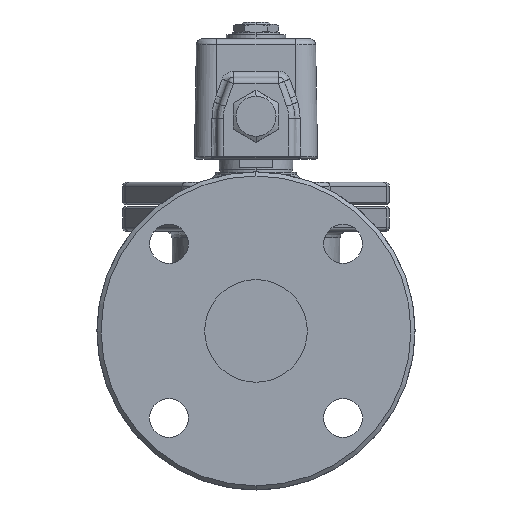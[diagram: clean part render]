
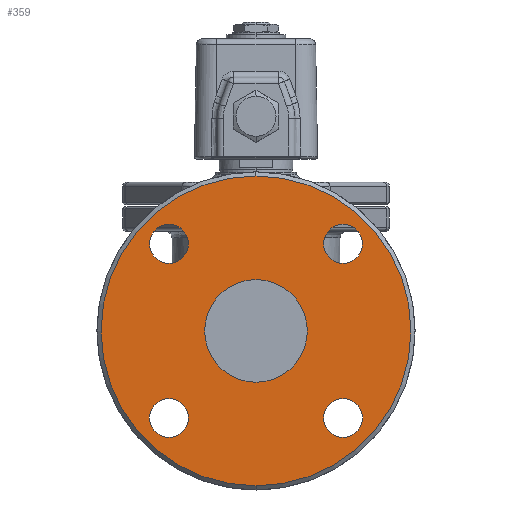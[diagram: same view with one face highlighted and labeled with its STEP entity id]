
A CAD part, left-side view. The second image highlights one B-rep face of the part: STEP entity #359.
In plain terms, the highlighted planar face has unit normal (-1, 0, 0).
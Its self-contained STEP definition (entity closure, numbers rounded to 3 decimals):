
#359=ADVANCED_FACE('',(#2047,#2048,#2049,#2050,#2051,#2052),#2046,.F.);
#2046=PLANE('',#7101);
#2047=FACE_OUTER_BOUND('',#7102,.T.);
#2048=FACE_BOUND('',#7103,.T.);
#2049=FACE_BOUND('',#7104,.T.);
#2050=FACE_BOUND('',#7105,.T.);
#2051=FACE_BOUND('',#7106,.T.);
#2052=FACE_BOUND('',#7107,.T.);
#7098=CARTESIAN_POINT('',(-97.5,-140.77,161.));
#7099=DIRECTION('',(1.,0.,0.));
#7100=DIRECTION('',(0.,0.,-1.));
#7101=AXIS2_PLACEMENT_3D('',#7098,#7099,#7100);
#7102=EDGE_LOOP('',(#10574,#10575));
#7103=EDGE_LOOP('',(#10576,#10577));
#7104=EDGE_LOOP('',(#10578,#10579));
#7105=EDGE_LOOP('',(#10580,#10581));
#7106=EDGE_LOOP('',(#10582,#10583));
#7107=EDGE_LOOP('',(#10584,#10585));
#10574=ORIENTED_EDGE('',*,*,#12367,.T.);
#10575=ORIENTED_EDGE('',*,*,#12368,.T.);
#10576=ORIENTED_EDGE('',*,*,#12369,.T.);
#10577=ORIENTED_EDGE('',*,*,#12370,.T.);
#10578=ORIENTED_EDGE('',*,*,#12371,.T.);
#10579=ORIENTED_EDGE('',*,*,#12372,.T.);
#10580=ORIENTED_EDGE('',*,*,#12373,.T.);
#10581=ORIENTED_EDGE('',*,*,#12374,.T.);
#10582=ORIENTED_EDGE('',*,*,#12375,.T.);
#10583=ORIENTED_EDGE('',*,*,#12376,.T.);
#10584=ORIENTED_EDGE('',*,*,#12377,.T.);
#10585=ORIENTED_EDGE('',*,*,#12378,.T.);
#12367=EDGE_CURVE('',#15625,#15626,#15627,.T.);
#12368=EDGE_CURVE('',#15626,#15625,#15633,.T.);
#12369=EDGE_CURVE('',#15639,#15640,#15641,.T.);
#12370=EDGE_CURVE('',#15640,#15639,#15647,.T.);
#12371=EDGE_CURVE('',#15653,#15654,#15655,.T.);
#12372=EDGE_CURVE('',#15654,#15653,#15661,.T.);
#12373=EDGE_CURVE('',#15667,#15668,#15669,.T.);
#12374=EDGE_CURVE('',#15668,#15667,#15675,.T.);
#12375=EDGE_CURVE('',#15681,#15682,#15683,.T.);
#12376=EDGE_CURVE('',#15682,#15681,#15689,.T.);
#12377=EDGE_CURVE('',#15695,#15696,#15697,.T.);
#12378=EDGE_CURVE('',#15696,#15695,#15703,.T.);
#15625=VERTEX_POINT('',#22562);
#15626=VERTEX_POINT('',#22563);
#15627=CIRCLE('',#22567,75.5);
#15633=CIRCLE('',#22571,75.5);
#15639=VERTEX_POINT('',#22572);
#15640=VERTEX_POINT('',#22573);
#15641=CIRCLE('',#22577,25.);
#15647=CIRCLE('',#22581,25.);
#15653=VERTEX_POINT('',#22582);
#15654=VERTEX_POINT('',#22583);
#15655=CIRCLE('',#22587,9.5);
#15661=CIRCLE('',#22591,9.5);
#15667=VERTEX_POINT('',#22592);
#15668=VERTEX_POINT('',#22593);
#15669=CIRCLE('',#22597,9.5);
#15675=CIRCLE('',#22601,9.5);
#15681=VERTEX_POINT('',#22602);
#15682=VERTEX_POINT('',#22603);
#15683=CIRCLE('',#22607,9.5);
#15689=CIRCLE('',#22611,9.5);
#15695=VERTEX_POINT('',#22612);
#15696=VERTEX_POINT('',#22613);
#15697=CIRCLE('',#22617,9.5);
#15703=CIRCLE('',#22621,9.5);
#22562=CARTESIAN_POINT('',(-97.5,0.,-75.5));
#22563=CARTESIAN_POINT('',(-97.5,0.,75.5));
#22564=CARTESIAN_POINT('',(-97.5,0.,0.));
#22565=DIRECTION('',(-1.,0.,0.));
#22566=DIRECTION('',(0.,0.,-1.));
#22567=AXIS2_PLACEMENT_3D('',#22564,#22565,#22566);
#22568=CARTESIAN_POINT('',(-97.5,0.,0.));
#22569=DIRECTION('',(-1.,0.,0.));
#22570=DIRECTION('',(0.,0.,-1.));
#22571=AXIS2_PLACEMENT_3D('',#22568,#22569,#22570);
#22572=CARTESIAN_POINT('',(-97.5,0.,25.));
#22573=CARTESIAN_POINT('',(-97.5,0.,-25.));
#22574=CARTESIAN_POINT('',(-97.5,0.,0.));
#22575=DIRECTION('',(1.,0.,0.));
#22576=DIRECTION('',(0.,0.,1.));
#22577=AXIS2_PLACEMENT_3D('',#22574,#22575,#22576);
#22578=CARTESIAN_POINT('',(-97.5,0.,0.));
#22579=DIRECTION('',(1.,0.,0.));
#22580=DIRECTION('',(0.,0.,1.));
#22581=AXIS2_PLACEMENT_3D('',#22578,#22579,#22580);
#22582=CARTESIAN_POINT('',(-97.5,-42.426,-32.926));
#22583=CARTESIAN_POINT('',(-97.5,-42.426,-51.926));
#22584=CARTESIAN_POINT('',(-97.5,-42.426,-42.426));
#22585=DIRECTION('',(1.,0.,0.));
#22586=DIRECTION('',(0.,0.,1.));
#22587=AXIS2_PLACEMENT_3D('',#22584,#22585,#22586);
#22588=CARTESIAN_POINT('',(-97.5,-42.426,-42.426));
#22589=DIRECTION('',(1.,0.,0.));
#22590=DIRECTION('',(0.,0.,1.));
#22591=AXIS2_PLACEMENT_3D('',#22588,#22589,#22590);
#22592=CARTESIAN_POINT('',(-97.5,42.426,51.926));
#22593=CARTESIAN_POINT('',(-97.5,42.426,32.926));
#22594=CARTESIAN_POINT('',(-97.5,42.426,42.426));
#22595=DIRECTION('',(1.,0.,0.));
#22596=DIRECTION('',(0.,0.,1.));
#22597=AXIS2_PLACEMENT_3D('',#22594,#22595,#22596);
#22598=CARTESIAN_POINT('',(-97.5,42.426,42.426));
#22599=DIRECTION('',(1.,0.,0.));
#22600=DIRECTION('',(0.,0.,1.));
#22601=AXIS2_PLACEMENT_3D('',#22598,#22599,#22600);
#22602=CARTESIAN_POINT('',(-97.5,-42.426,51.926));
#22603=CARTESIAN_POINT('',(-97.5,-42.426,32.926));
#22604=CARTESIAN_POINT('',(-97.5,-42.426,42.426));
#22605=DIRECTION('',(1.,0.,0.));
#22606=DIRECTION('',(0.,0.,1.));
#22607=AXIS2_PLACEMENT_3D('',#22604,#22605,#22606);
#22608=CARTESIAN_POINT('',(-97.5,-42.426,42.426));
#22609=DIRECTION('',(1.,0.,0.));
#22610=DIRECTION('',(0.,0.,1.));
#22611=AXIS2_PLACEMENT_3D('',#22608,#22609,#22610);
#22612=CARTESIAN_POINT('',(-97.5,42.426,-32.926));
#22613=CARTESIAN_POINT('',(-97.5,42.426,-51.926));
#22614=CARTESIAN_POINT('',(-97.5,42.426,-42.426));
#22615=DIRECTION('',(1.,0.,0.));
#22616=DIRECTION('',(0.,0.,1.));
#22617=AXIS2_PLACEMENT_3D('',#22614,#22615,#22616);
#22618=CARTESIAN_POINT('',(-97.5,42.426,-42.426));
#22619=DIRECTION('',(1.,0.,0.));
#22620=DIRECTION('',(0.,0.,1.));
#22621=AXIS2_PLACEMENT_3D('',#22618,#22619,#22620);
